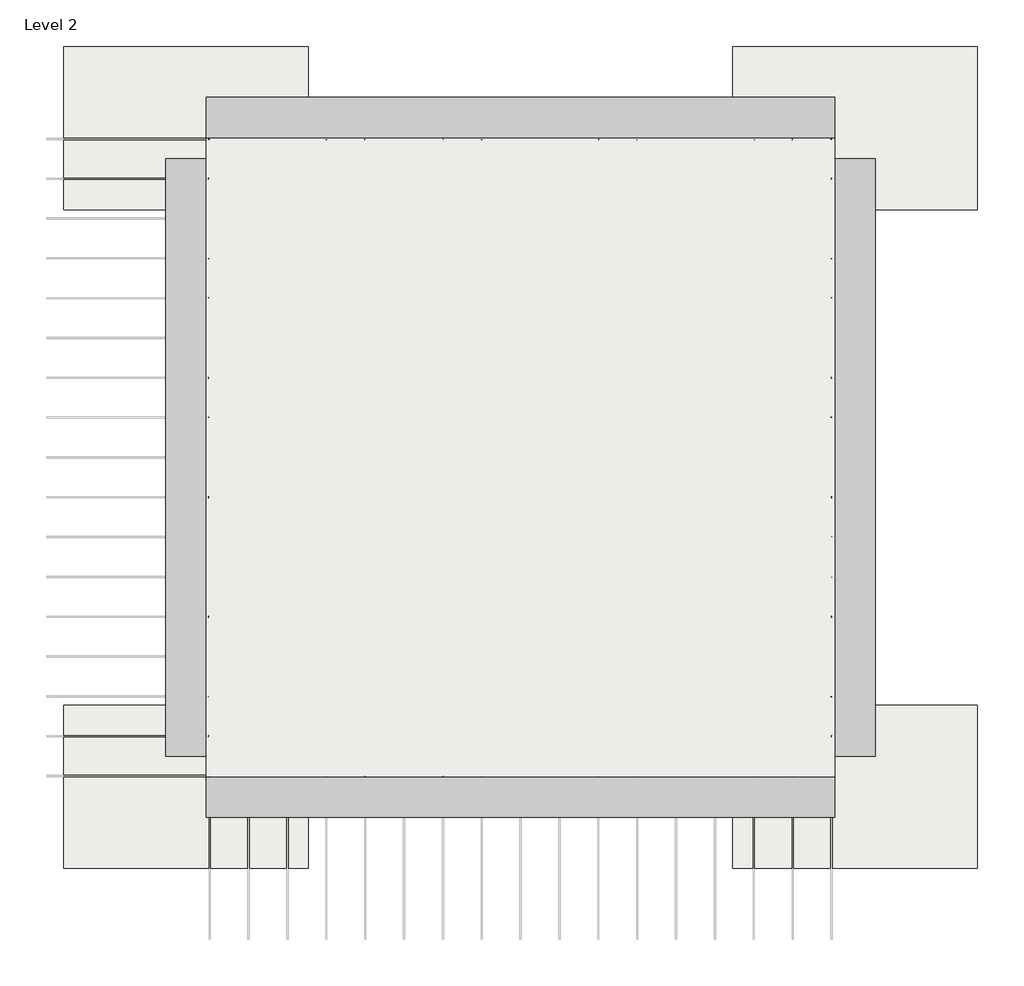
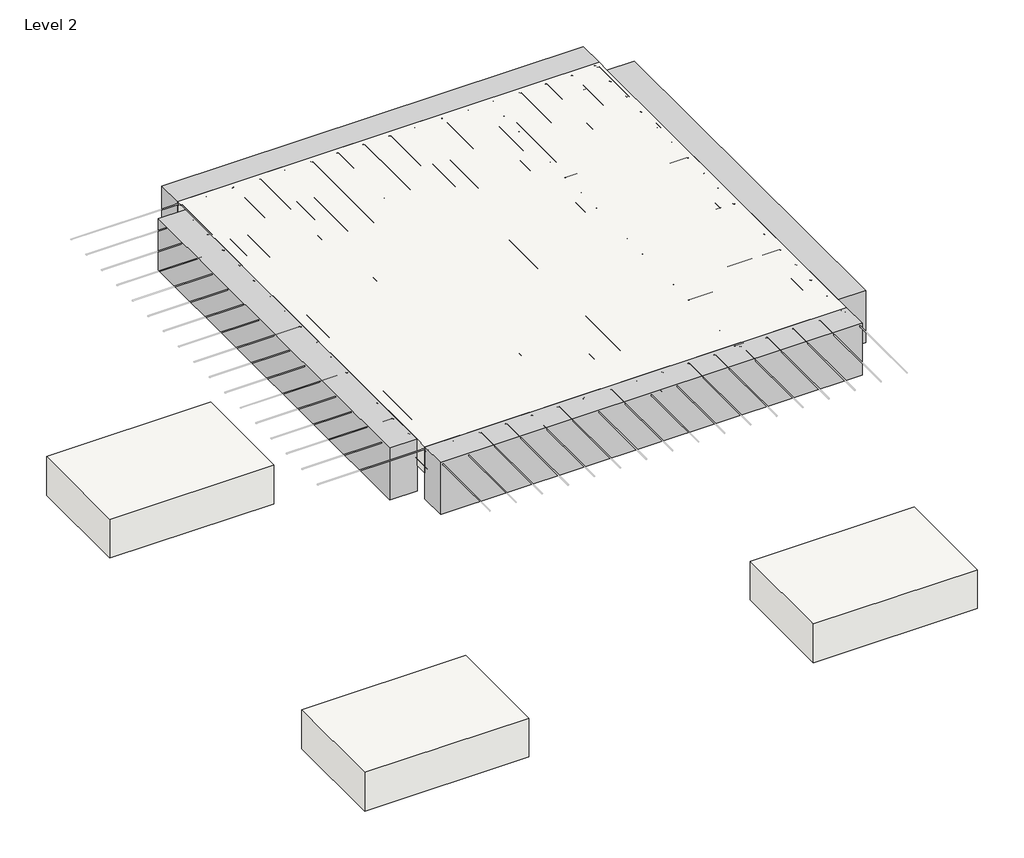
# One storey, part 1 of 2: 5 slabs, 4 beams.
"""IFC4 building model written with IfcOpenShell, lengths in millimetres."""

from ifc_helpers import new_model, si_unit, frame, origin, place, context, project, spatial, polyline, outline, extrude, faceted_brep, transform, mapped, element, save
from components import slab_5ba74754

model = new_model("IFC4")

# Units and contexts
model_context = context("Model", 3, world=origin())
ifc_project = project(units=[si_unit("LENGTHUNIT", "METRE", prefix="MILLI")], contexts=[model_context])

# Site, building, storey
site = spatial("IfcSite", under=ifc_project)
building = spatial("IfcBuilding", under=site)
storey = spatial("IfcBuildingStorey", under=building, Name="Level 2", Elevation=3048.0)

# Beams
placement = place(None, origin())
element("IfcBeam", 1, ObjectType="Concrete-Rectangular Beam : 12 x 24", at=placement, inside=storey, context=model_context, shape_type="SweptSolid", body=[
    extrude(outline(polyline([(-12062.9372644, 13782.6603403), (-11758.1372644, 13782.6603403), (-11758.1372644, 9316.0603403), (-12062.9372644, 9316.0603403), (-12062.9372644, 13782.6603403)])), frame((0.0, 0.0, 2438.4), z_axis=(0.0, 0.0, 1.0), x_axis=(1.0, 0.0, 0.0)), (0.0, 0.0, 1.0), 609.6),
])
element("IfcBeam", 2, ObjectType="Concrete-Rectangular Beam : 12 x 24", at=placement, inside=storey, context=model_context, shape_type="Brep", body=[
    faceted_brep([(-11758.1372644, 14239.8603403, 3048.0), (-11758.1372644, 13935.0603403, 3048.0), (-7062.9372644, 13935.0603403, 3048.0), (-7062.9372644, 14239.8603403, 3048.0), (-11758.1372644, 13935.0603403, 2743.2), (-11758.1372644, 13935.0603403, 2438.4), (-7062.9372644, 13935.0603403, 2438.4), (-7062.9372644, 13935.0603403, 2743.2), (-11758.1372644, 14239.8603403, 2438.4), (-7062.9372644, 14239.8603403, 2438.4)], [[[0, 1, 2, 3]], [[1, 4, 5, 6, 7, 2]], [[5, 8, 9, 6]], [[8, 0, 3, 9]], [[5, 4, 1, 0, 8]], [[3, 2, 7, 6, 9]]]),
])
element("IfcBeam", 3, ObjectType="Concrete-Rectangular Beam : 12 x 24", at=placement, inside=storey, context=model_context, shape_type="SweptSolid", body=[
    extrude(outline(polyline([(-7062.9372644, 13782.6603403), (-6758.1372644, 13782.6603403), (-6758.1372644, 9316.0603403), (-7062.9372644, 9316.0603403), (-7062.9372644, 13782.6603403)])), frame((0.0, 0.0, 2438.4), z_axis=(0.0, 0.0, 1.0), x_axis=(1.0, 0.0, 0.0)), (0.0, 0.0, 1.0), 609.6),
])
element("IfcBeam", 4, ObjectType="Concrete-Rectangular Beam : 12 x 24", at=placement, inside=storey, context=model_context, shape_type="Brep", body=[
    faceted_brep([(-7062.9372644, 8858.8603403, 3048.0), (-7062.9372644, 9163.6603403, 3048.0), (-11758.1372644, 9163.6603403, 3048.0), (-11758.1372644, 8858.8603403, 3048.0), (-7062.9372644, 9163.6603403, 2743.2), (-7062.9372644, 9163.6603403, 2438.4), (-11758.1372644, 9163.6603403, 2438.4), (-11758.1372644, 9163.6603403, 2743.2), (-7062.9372644, 8858.8603403, 2438.4), (-11758.1372644, 8858.8603403, 2438.4)], [[[0, 1, 2, 3]], [[1, 4, 5, 6, 7, 2]], [[5, 8, 9, 6]], [[8, 0, 3, 9]], [[5, 4, 1, 0, 8]], [[3, 2, 7, 6, 9]]]),
])

# Slabs
slab_shape = slab_5ba74754(model_context)
element("IfcSlab", 5, ObjectType="Footing-Rectangular : 72\" x 48\" x 18\"", at=placement, inside=storey, context=model_context, shape_type="MappedRepresentation", body=[
    mapped(slab_shape, transform((-11910.5372644, 14011.2603403, 0.0), x_axis=(0.0, 1.0, 0.0), y_axis=(-1.0, 0.0, 0.0), z_axis=(0.0, 0.0, 1.0))),
])
element("IfcSlab", 6, ObjectType="Footing-Rectangular : 72\" x 48\" x 18\"", at=placement, inside=storey, context=model_context, shape_type="MappedRepresentation", body=[
    mapped(slab_shape, transform((-6910.5372644, 14011.2603403, 0.0), x_axis=(0.0, 1.0, 0.0), y_axis=(-1.0, 0.0, 0.0), z_axis=(0.0, 0.0, 1.0))),
])
element("IfcSlab", 7, ObjectType="Footing-Rectangular : 72\" x 48\" x 18\"", at=placement, inside=storey, context=model_context, shape_type="MappedRepresentation", body=[
    mapped(slab_shape, transform((-6910.5372644, 9087.4603403, 0.0), x_axis=(0.0, 1.0, 0.0), y_axis=(-1.0, 0.0, 0.0), z_axis=(0.0, 0.0, 1.0))),
])
element("IfcSlab", 8, ObjectType="Footing-Rectangular : 72\" x 48\" x 18\"", at=placement, inside=storey, context=model_context, shape_type="MappedRepresentation", body=[
    mapped(slab_shape, transform((-11910.5372644, 9087.4603403, 0.0), x_axis=(0.0, 1.0, 0.0), y_axis=(-1.0, 0.0, 0.0), z_axis=(0.0, 0.0, 1.0))),
])
element("IfcSlab", 9, ObjectType="Generic - 12\"", at=placement, inside=storey, context=model_context, shape_type="Brep", body=[
    faceted_brep([(-7062.9372644, 13935.0603403, 2743.2), (-7062.9372644, 9163.6603403, 2743.2), (-11758.1372644, 9163.6603403, 2743.2), (-11758.1372644, 13935.0603403, 2743.2), (-7062.9372644, 13935.0603403, 3048.0), (-11758.1372644, 13935.0603403, 3048.0), (-11758.1372644, 13782.6603403, 3048.0), (-11758.1372644, 9316.0603403, 3048.0), (-11758.1372644, 9163.6603403, 3048.0), (-7062.9372644, 9163.6603403, 3048.0), (-7062.9372644, 9316.0603403, 3048.0), (-7062.9372644, 13782.6603403, 3048.0)], [[[0, 1, 2, 3]], [[4, 5, 6, 7, 8, 9, 10, 11]], [[1, 0, 4, 11, 10, 9]], [[2, 1, 9, 8]], [[3, 2, 8, 7, 6, 5]], [[0, 3, 5, 4]]]),
])

save(model, "model.ifc")
